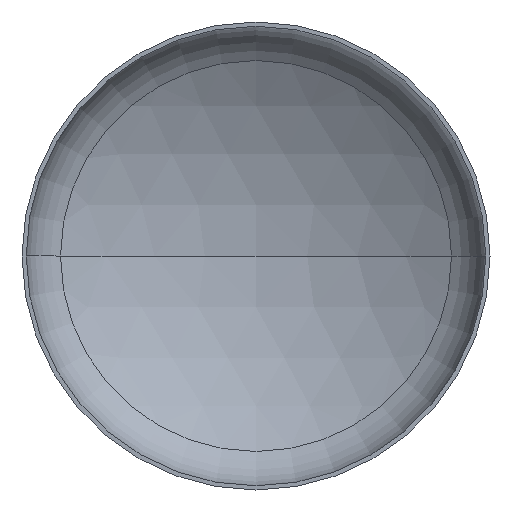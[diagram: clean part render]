
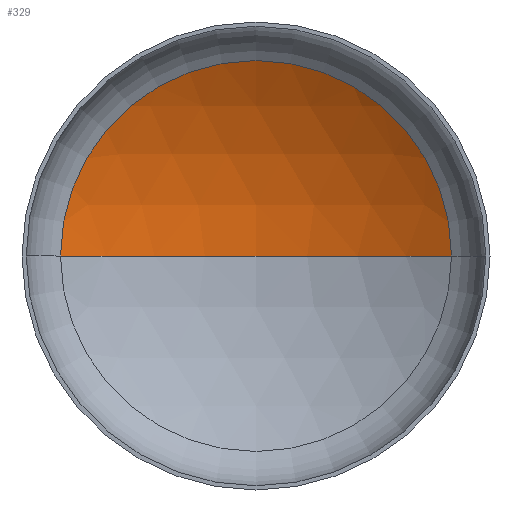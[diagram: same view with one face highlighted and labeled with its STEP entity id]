
A CAD part, front view. The second image highlights one B-rep face of the part: STEP entity #329.
In plain terms, the highlighted spherical face has radius 2400 mm.
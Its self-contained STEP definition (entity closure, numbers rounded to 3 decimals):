
#7 = EDGE_LOOP ( 'NONE', ( #44, #126, #37 ) ) ;
#19 = AXIS2_PLACEMENT_3D ( 'NONE', #165, #175, #171 ) ;
#37 = ORIENTED_EDGE ( 'NONE', *, *, #152, .T. ) ;
#40 = VERTEX_POINT ( 'NONE', #252 ) ;
#44 = ORIENTED_EDGE ( 'NONE', *, *, #187, .F. ) ;
#52 = AXIS2_PLACEMENT_3D ( 'NONE', #282, #280, #248 ) ;
#60 = AXIS2_PLACEMENT_3D ( 'NONE', #225, #272, #271 ) ;
#64 = AXIS2_PLACEMENT_3D ( 'NONE', #298, #88, #159 ) ;
#78 = VERTEX_POINT ( 'NONE', #276 ) ;
#88 = DIRECTION ( 'NONE',  ( 0., -1., 0. ) ) ;
#104 = VERTEX_POINT ( 'NONE', #236 ) ;
#126 = ORIENTED_EDGE ( 'NONE', *, *, #174, .T. ) ;
#151 = FACE_OUTER_BOUND ( 'NONE', #7, .T. ) ;
#152 = EDGE_CURVE ( 'NONE', #40, #78, #250, .T. ) ;
#159 = DIRECTION ( 'NONE',  ( 1., 0., 0. ) ) ;
#165 = CARTESIAN_POINT ( 'NONE',  ( 0., -1569.518, 0. ) ) ;
#171 = DIRECTION ( 'NONE',  ( -1., 0., 0. ) ) ;
#174 = EDGE_CURVE ( 'NONE', #104, #40, #300, .T. ) ;
#175 = DIRECTION ( 'NONE',  ( 0., 0., -1. ) ) ;
#187 = EDGE_CURVE ( 'NONE', #104, #78, #243, .T. ) ;
#225 = CARTESIAN_POINT ( 'NONE',  ( 0., -1569.518, 0. ) ) ;
#236 = CARTESIAN_POINT ( 'NONE',  ( 0., 830.482, 0. ) ) ;
#243 = CIRCLE ( 'NONE', #52, 2400. ) ;
#248 = DIRECTION ( 'NONE',  ( 1., 0., 0. ) ) ;
#250 = CIRCLE ( 'NONE', #64, 1253.196 ) ;
#252 = CARTESIAN_POINT ( 'NONE',  ( 1253.196, 477.308, 0. ) ) ;
#271 = DIRECTION ( 'NONE',  ( -1., 0., 0. ) ) ;
#272 = DIRECTION ( 'NONE',  ( 0., 0., -1. ) ) ;
#276 = CARTESIAN_POINT ( 'NONE',  ( -1253.196, 477.308, 0. ) ) ;
#280 = DIRECTION ( 'NONE',  ( 0., 0., 1. ) ) ;
#281 = SPHERICAL_SURFACE ( 'NONE', #19, 2400. ) ;
#282 = CARTESIAN_POINT ( 'NONE',  ( 0., -1569.518, 0. ) ) ;
#298 = CARTESIAN_POINT ( 'NONE',  ( 0., 477.308, 0. ) ) ;
#300 = CIRCLE ( 'NONE', #60, 2400. ) ;
#329 = ADVANCED_FACE ( 'NONE', ( #151 ), #281, .F. ) ;
